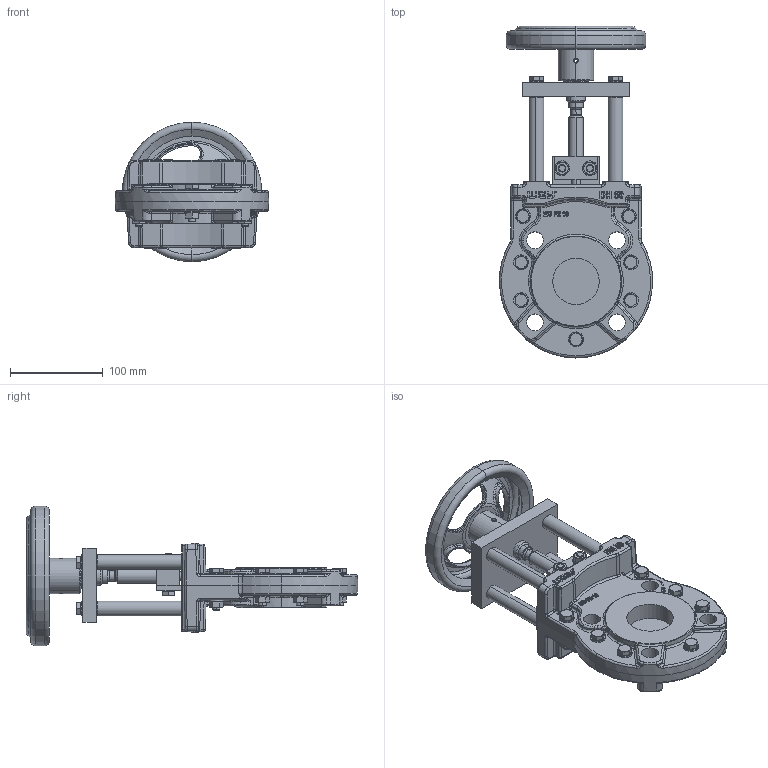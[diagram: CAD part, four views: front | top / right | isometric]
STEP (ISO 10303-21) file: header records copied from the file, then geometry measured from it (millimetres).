
FILE_DESCRIPTION (( 'STEP AP214' ), '1' );
FILE_NAME ('MGA DN 0050 PN16 (DH 150).STEP', '2015-09-23T08:00:26', ( 'admin' ), ( 'Hewlett-Packard Company' ), 'SwSTEP 2.0', 'SolidWorks 2013', '' );
FILE_SCHEMA (( 'AUTOMOTIVE_DESIGN' ));
Length unit declared in the file: millimetre
Products named in the file (1): MGA DN 0050 PN16 (DH 150)
Bounding box: 165 x 357 x 150 mm (x, y, z)
Volume: 1305762.5 mm3; surface area: 272664.8 mm2
Topology: 46 solids, 55 shells, 2006 faces, 4674 edges, 2819 vertices
Faces by surface type: plane 684, cylinder 502, cone 369, bspline 286, torus 135, sphere 30
Entity records: 93193 total; most frequent: CARTESIAN_POINT 26834, ORIENTED_EDGE 9292, DIRECTION 8814, EDGE_CURVE 4646, AXIS2_PLACEMENT_3D 3473, VERTEX_POINT 2819, EDGE_LOOP 2189, UNCERTAINTY_MEASURE_WITH_UNIT 2052
